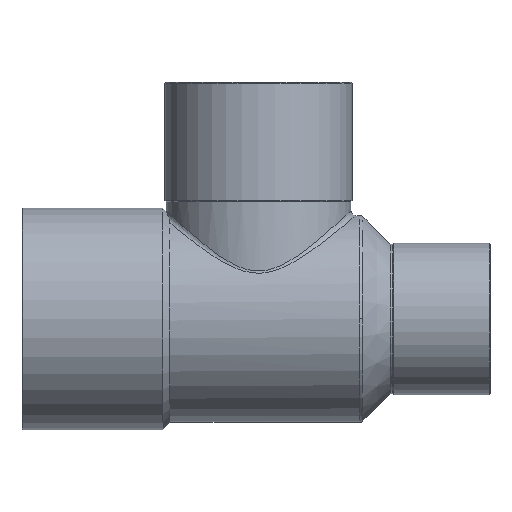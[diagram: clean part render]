
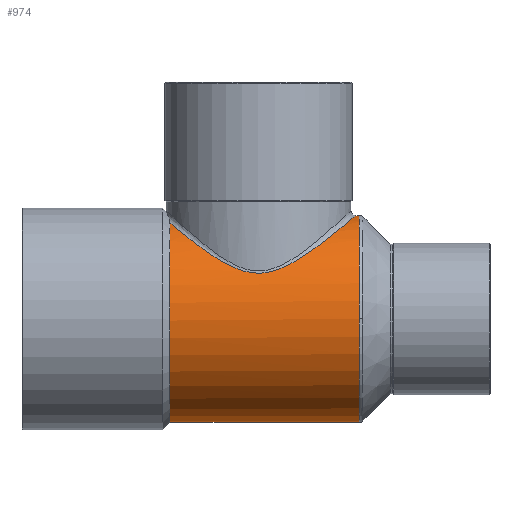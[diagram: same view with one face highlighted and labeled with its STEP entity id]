
A CAD part, top view. The second image highlights one B-rep face of the part: STEP entity #974.
In plain terms, the highlighted cylindrical face has radius 21 mm (diameter 42 mm), a partial arc.
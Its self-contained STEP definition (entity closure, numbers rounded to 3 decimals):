
#356=CARTESIAN_POINT('',(-17.987,-21.,0.));
#357=VERTEX_POINT('',#356);
#364=CARTESIAN_POINT('',(-17.987,19.503,7.787));
#365=VERTEX_POINT('',#364);
#366=CARTESIAN_POINT('',(-17.987,0.0,0.0));
#367=DIRECTION('',(1.0,0.0,0.0));
#368=DIRECTION('',(0.0,1.0,0.0));
#369=AXIS2_PLACEMENT_3D('',#366,#367,#368);
#370=CIRCLE('',#369,21.);
#371=EDGE_CURVE('',#365,#357,#370,.T.);
#904=CARTESIAN_POINT('',(1.467,0.0,0.0));
#905=DIRECTION('',(1.0,0.0,0.0));
#906=DIRECTION('',(0.0,1.0,0.0));
#907=AXIS2_PLACEMENT_3D('',#904,#905,#906);
#908=CYLINDRICAL_SURFACE('',#907,21.);
#909=CARTESIAN_POINT('',(19.75,21.,0.));
#910=VERTEX_POINT('',#909);
#911=CARTESIAN_POINT('',(20.507,21.,0.0));
#912=VERTEX_POINT('',#911);
#913=CARTESIAN_POINT('',(19.75,21.,0.));
#914=DIRECTION('',(1.0,0.0,0.));
#915=VECTOR('',#914,0.757);
#916=LINE('',#913,#915);
#917=EDGE_CURVE('',#910,#912,#916,.T.);
#918=ORIENTED_EDGE('',*,*,#917,.F.);
#919=CARTESIAN_POINT('',(-17.987,19.503,7.787));
#920=CARTESIAN_POINT('',(-16.858,18.555,10.162));
#921=CARTESIAN_POINT('',(-15.296,17.255,12.163));
#922=CARTESIAN_POINT('',(-13.466,15.837,13.791));
#923=CARTESIAN_POINT('',(-11.632,14.416,15.423));
#924=CARTESIAN_POINT('',(-9.554,12.864,16.676));
#925=CARTESIAN_POINT('',(-7.192,11.521,17.558));
#926=CARTESIAN_POINT('',(-4.901,10.217,18.413));
#927=CARTESIAN_POINT('',(-2.198,9.104,18.925));
#928=CARTESIAN_POINT('',(0.6,9.269,18.844));
#929=CARTESIAN_POINT('',(2.611,9.388,18.785));
#930=CARTESIAN_POINT('',(4.518,10.114,18.433));
#931=CARTESIAN_POINT('',(6.236,11.001,17.888));
#932=CARTESIAN_POINT('',(7.953,11.888,17.343));
#933=CARTESIAN_POINT('',(9.491,12.917,16.614));
#934=CARTESIAN_POINT('',(10.926,13.942,15.705));
#935=CARTESIAN_POINT('',(13.264,15.611,14.223));
#936=CARTESIAN_POINT('',(15.293,17.266,12.27));
#937=CARTESIAN_POINT('',(16.858,18.562,9.822));
#938=CARTESIAN_POINT('',(17.95,19.465,8.114));
#939=CARTESIAN_POINT('',(18.804,20.192,6.154));
#940=CARTESIAN_POINT('',(19.289,20.605,4.051));
#941=CARTESIAN_POINT('',(19.592,20.864,2.737));
#942=CARTESIAN_POINT('',(19.75,21.,1.366));
#943=CARTESIAN_POINT('',(19.75,21.,0.));
#944=B_SPLINE_CURVE_WITH_KNOTS('',3,(#919,#920,#921,#922,#923,#924,#925,#926,#927,#928,#929,#930,#931,#932,#933,#934,#935,#936,#937,#938,#939,#940,#941,#942,#943),.UNSPECIFIED.,.F.,.U.,(4,3,3,3,3,3,3,3,4),(13.481,14.346,15.212,16.053,16.658,17.262,18.246,18.934,19.363),.UNSPECIFIED.);
#945=EDGE_CURVE('',#365,#910,#944,.T.);
#946=ORIENTED_EDGE('',*,*,#945,.F.);
#947=ORIENTED_EDGE('',*,*,#371,.T.);
#948=CARTESIAN_POINT('',(20.507,-21.,0.));
#949=VERTEX_POINT('',#948);
#950=CARTESIAN_POINT('',(20.507,-21.,0.));
#951=DIRECTION('',(-1.0,0.0,0.0));
#952=VECTOR('',#951,38.494);
#953=LINE('',#950,#952);
#954=EDGE_CURVE('',#949,#357,#953,.T.);
#955=ORIENTED_EDGE('',*,*,#954,.F.);
#956=CARTESIAN_POINT('',(20.507,0.,21.));
#957=VERTEX_POINT('',#956);
#958=CARTESIAN_POINT('',(20.507,0.0,0.0));
#959=DIRECTION('',(1.0,0.0,0.0));
#960=DIRECTION('',(0.0,-1.0,0.0));
#961=AXIS2_PLACEMENT_3D('',#958,#959,#960);
#962=CIRCLE('',#961,21.);
#963=EDGE_CURVE('',#957,#949,#962,.T.);
#964=ORIENTED_EDGE('',*,*,#963,.F.);
#965=CARTESIAN_POINT('',(20.507,0.0,0.0));
#966=DIRECTION('',(1.0,0.0,0.0));
#967=DIRECTION('',(0.0,-1.0,0.0));
#968=AXIS2_PLACEMENT_3D('',#965,#966,#967);
#969=CIRCLE('',#968,21.);
#970=EDGE_CURVE('',#912,#957,#969,.T.);
#971=ORIENTED_EDGE('',*,*,#970,.F.);
#972=EDGE_LOOP('',(#918,#946,#947,#955,#964,#971));
#973=FACE_OUTER_BOUND('',#972,.T.);
#974=ADVANCED_FACE('',(#973),#908,.T.);
